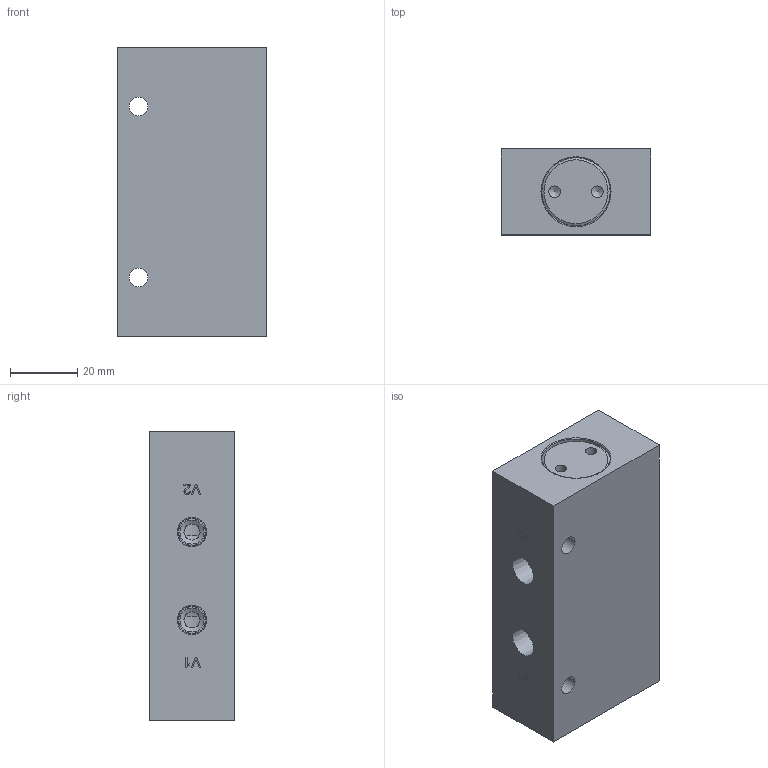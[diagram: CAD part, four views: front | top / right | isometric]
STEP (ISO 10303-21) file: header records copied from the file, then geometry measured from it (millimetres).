
FILE_DESCRIPTION(/* description */ (''),/* implementation_level */ '2;1');
FILE_NAME(/* name */ 'L:\ALADCO\Advertising\3D Content\Valves\Step Files - 2014-11-19 thru Present\Aladco #62120X.stp',/* time_stamp */ '2015-04-14T13:06:05-05:00',/* author */ ('dmatz'),/* organization */ ('Aladdin Eng. & Manf. Inc.'),/* preprocessor_version */ 'ST-DEVELOPER v15.2',/* originating_system */ 'Autodesk Inventor 2014',/* authorisation */ '0 in^3');
FILE_SCHEMA (('AUTOMOTIVE_DESIGN { 1 0 10303 214 3 1 1 }'));
Length unit declared in the file: inch
Products named in the file (3): 620029; 620030; 621201
Bounding box: 44.45 x 25.4 x 85.72 mm (x, y, z)
Volume: 76890.2 mm3; surface area: 25482.7 mm2
Topology: 3 solids, 3 shells, 205 faces, 507 edges, 326 vertices
Faces by surface type: plane 72, cylinder 47, bspline 42, cone 28, torus 16
Full cylindrical faces by diameter (mm): 3.454 x4, 3.962 x8, 4.762 x4, 5.537 x2, 7.95 x6, 14.503 x2, 15.875 x1, 16.51 x4, 17.221 x2, 18.999 x4, 19.05 x4, 20.066 x2, 20.269 x2, 22.225 x2
Entity records: 5610 total; most frequent: CARTESIAN_POINT 1884, ORIENTED_EDGE 680, DIRECTION 598, EDGE_CURVE 340, EDGE_LOOP 282, VERTEX_POINT 256, AXIS2_PLACEMENT_3D 218, ADVANCED_FACE 174
